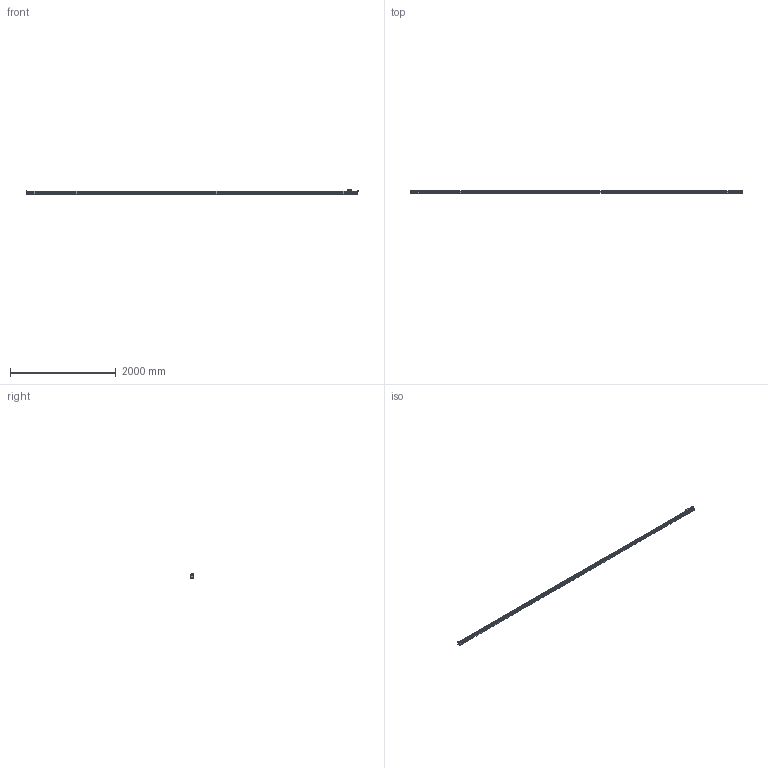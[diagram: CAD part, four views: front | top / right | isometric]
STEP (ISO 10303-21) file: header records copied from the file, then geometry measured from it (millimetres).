
FILE_DESCRIPTION(('Creo Elements/Direct Modeling STEP Export'),'2;1');
FILE_NAME('REGLA_L3_6040_M.stp','2021-02-03T13:38:27',(''),(''),'Creo Elements/Direct Modeling STEP processor for AP214 (Solid Model)','Creo Elements/Direct Modeling 19.0G 27-Nov-2017 (C) Parametric Technology GmbH','');
FILE_SCHEMA(('AUTOMOTIVE_DESIGN { 1 0 10303 214 1 1 1 1 }'));
Products named in the file (3): PERFIL_L3_6040; CABEZA_L3_M8; MOD_L3_6040_M
Assembly tree (2 placements, depth 2):
  MOD_L3_6040_M
    CABEZA_L3_M8
    PERFIL_L3_6040
Bounding box: 6290 x 50 x 85 mm (x, y, z)
Volume: 16317308.3 mm3; surface area: 1824099.2 mm2
Topology: 2 solids, 2 shells, 2230 faces, 6406 edges, 4277 vertices
Faces by surface type: plane 1128, cylinder 768, cone 219, bspline 59, torus 50, extrusion 6
Entity records: 89279 total; most frequent: CARTESIAN_POINT 25564, ORIENTED_EDGE 12796, DIRECTION 11343, EDGE_CURVE 6398, VERTEX_POINT 4277, VECTOR 4043, LINE 4037, AXIS2_PLACEMENT_3D 3650
